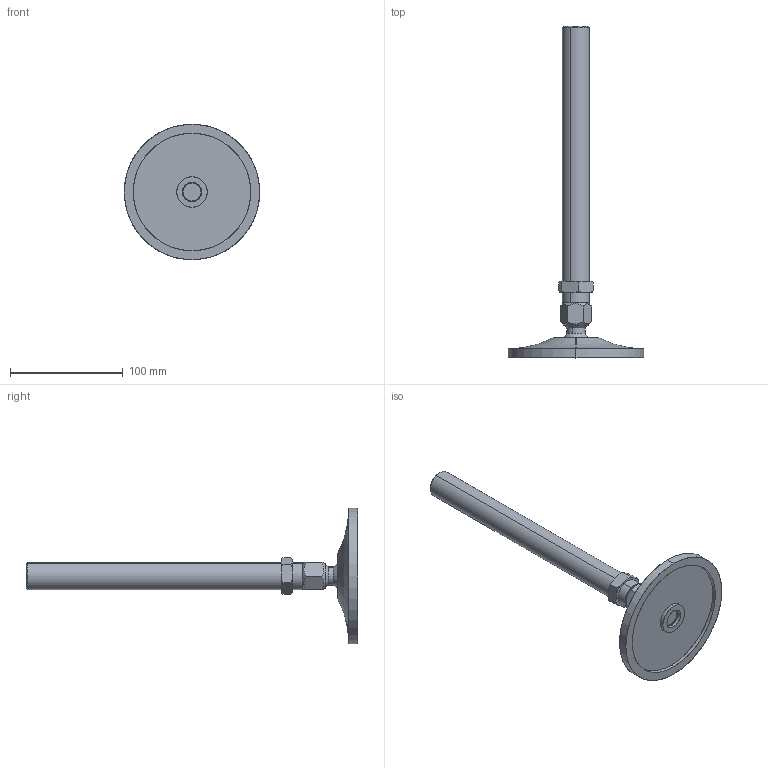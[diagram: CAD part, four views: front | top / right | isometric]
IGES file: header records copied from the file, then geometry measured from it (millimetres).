
Start section: SolidWorks IGES file using analytic representation for surfaces
Global section: file name: C:\Documents and Settings\URETIM3\Desktop\yeni katalog tolgay düzenli\A kataloðu\pabuc,saplama montajlarý\507-560 ÇELÝK PASLANMAZ TABANLI VE MÝLLÝ MAFSALLI PABUÇ MONTAJLARI\... 122 429.IGS; native system: SolidWorks 2006 by SolidWorks Corporation; preprocessor: SolidWorks 2006 by SolidWorks Corporation; author: URETIM3; date: 060911.174218; units: millimetre
Bounding box: 120 x 294 x 120 mm (x, y, z)
Surface area: 51939.6 mm2 (no closed solid volume)
Topology: 0 solids, 0 shells, 61 faces, 1084 edges, 1084 vertices
Faces by surface type: revolution 36, bspline 25
